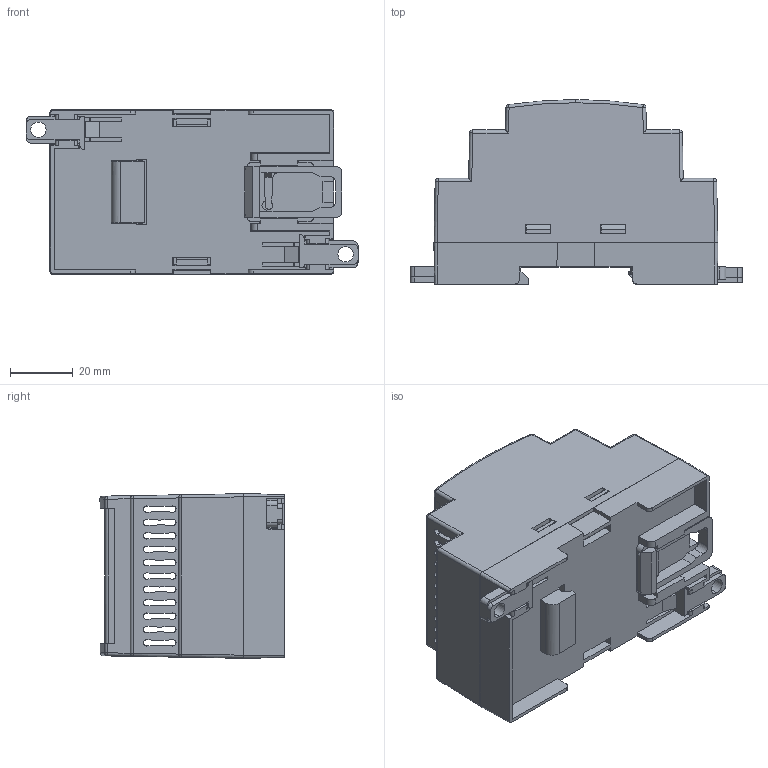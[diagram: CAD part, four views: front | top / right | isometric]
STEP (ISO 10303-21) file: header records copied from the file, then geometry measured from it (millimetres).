
FILE_DESCRIPTION (( 'STEP AP203' ), '1' );
FILE_NAME ('RT-203-B.STEP', '2022-01-24T05:36:48', ( '' ), ( '' ), 'SwSTEP 2.0', 'SolidWorks 2021', '' );
FILE_SCHEMA (( 'CONFIG_CONTROL_DESIGN' ));
Length unit declared in the file: millimetre
Products named in the file (6): RT-203-P-2_B; lock_2; RT-203-P-1; RT-203-P-3; lock_1; RT-203-B
Assembly tree (6 placements, depth 2):
  RT-203-B
    RT-203-P-1
    RT-203-P-2_B
    RT-203-P-3
    lock_1  x2
    lock_2
Bounding box: 105.89 x 58.8 x 52.5 mm (x, y, z)
Volume: 45341.6 mm3; surface area: 53264.8 mm2
Topology: 6 solids, 6 shells, 755 faces, 2217 edges, 1462 vertices
Faces by surface type: plane 419, cylinder 297, bspline 17, sphere 12, cone 10
Entity records: 25645 total; most frequent: CARTESIAN_POINT 6982, ORIENTED_EDGE 4298, DIRECTION 3136, EDGE_CURVE 2149, VECTOR 1448, LINE 1448, VERTEX_POINT 1422, AXIS2_PLACEMENT_3D 844
